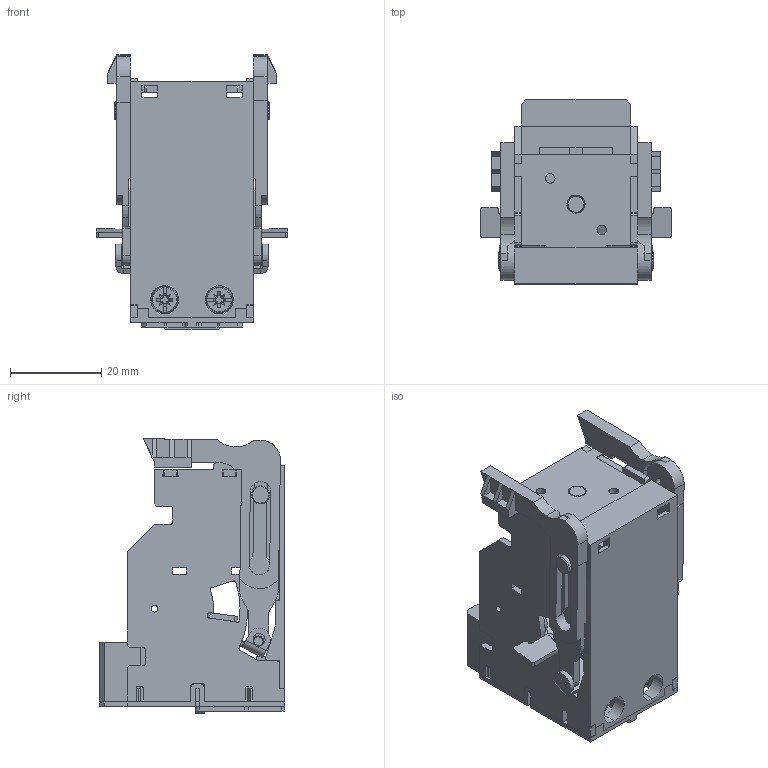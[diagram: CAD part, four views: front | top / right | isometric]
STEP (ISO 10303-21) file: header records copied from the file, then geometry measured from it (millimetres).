
FILE_DESCRIPTION (( 'STEP AP203' ), '1' );
FILE_NAME ('400Ƿѹ.STEP', '2024-09-26T05:21:43', ( 'A' ), ( '' ), 'SwSTEP 2.0', 'SolidWorks 2018', '' );
FILE_SCHEMA (( 'CONFIG_CONTROL_DESIGN' ));
Length unit declared in the file: millimetre
Products named in the file (25): 5LD.050.1019; 8LD.211.1000; 5LD.050.1020; 8LD.300.1106; 8LD.559.1108; 6LD.374.1198; 400Ƿѹ_1_1; 8LD.310.1033; 8LD.300.1107; 8LD.234.1051_3; 8LD.310.1032; 8LD.900.1000_GB_CROSS_SCREWS_TYPE2 M3X4-4  Z type-N; 8LD.055.1006; 8LD.615.1035; 5LD.850.1002; 8LD.588.1027; 8LD.953.1002; 5LD.239.1019; 8LD.235.1174; 8LD.588.1026; 8LD.946.1001; 8LD.050.1029; 5LD.239.1021; 8LD.206.1268
Assembly tree (29 placements, depth 5):
  400Ƿѹ_1_1
    8LD.300.1107
    8LD.946.1001  x2
    8LD.300.1106
    8LD.310.1032
    8LD.310.1033
    5LD.850.1002  x2
      8LD.900.1000_GB_CROSS_SCREWS_TYPE2 M3X4-4  Z type-N
      8LD.953.1002
    5LD.239.1019
      8LD.055.1006
      8LD.615.1035
      5LD.239.1021
        8LD.211.1000  x2
        5LD.050.1019
          8LD.050.1029
          8LD.206.1268
        5LD.050.1020
          8LD.050.1029
          8LD.206.1268
        8LD.235.1174
    6LD.374.1198
      8LD.559.1108
      8LD.588.1026
      8LD.588.1027
    8LD.234.1051_3
    8LD.234.1051_3
Bounding box: 42 x 40.5 x 60.34 mm (x, y, z)
Volume: 16189.2 mm3; surface area: 29905 mm2
Topology: 24 solids, 24 shells, 1743 faces, 4831 edges, 3105 vertices
Faces by surface type: plane 1072, cylinder 524, torus 49, cone 44, sphere 34, bspline 20
Entity records: 49615 total; most frequent: CARTESIAN_POINT 9136, ORIENTED_EDGE 8064, DIRECTION 7734, EDGE_CURVE 4032, LINE 2956, VECTOR 2956, VERTEX_POINT 2605, AXIS2_PLACEMENT_3D 2389
